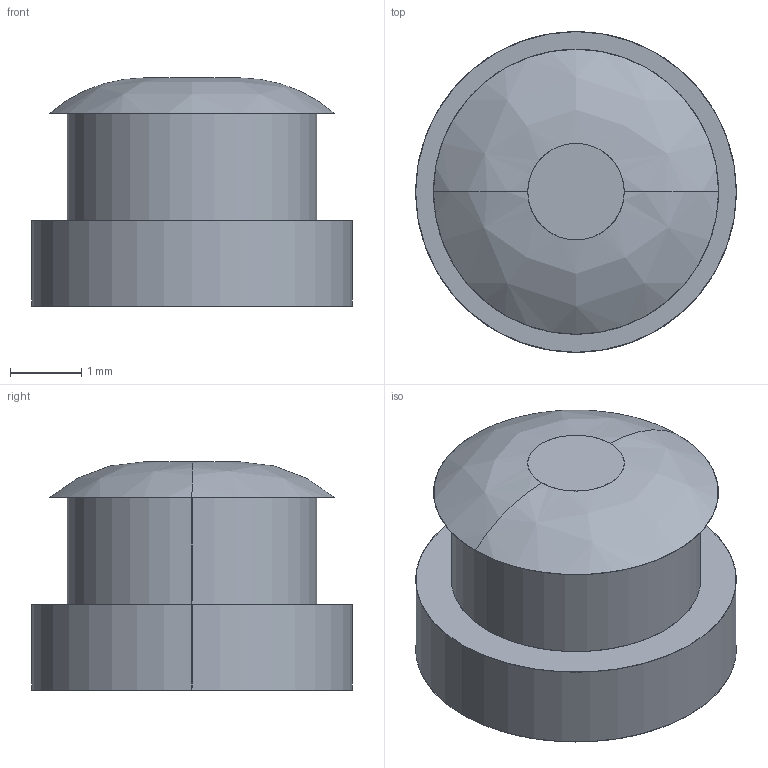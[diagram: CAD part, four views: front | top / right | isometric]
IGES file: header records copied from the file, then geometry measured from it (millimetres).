
Start section: SolidWorks IGES FILE using analytic representation for surfaces
Global section: file name: C:\Documents and Settings\brechard\Bureau\GP 10\10.100.10.IGS; native system: SolidWorks 2001Plus by SolidWorks Corporation; preprocessor: Version 5.3; author: brechard; date: 050126.143838; units: millimetre
Bounding box: 4.5 x 4.5 x 3.2 mm (x, y, z)
Surface area: 72.5 mm2 (no closed solid volume)
Topology: 0 solids, 0 shells, 10 faces, 200 edges, 200 vertices
Faces by surface type: bspline 6, revolution 4
